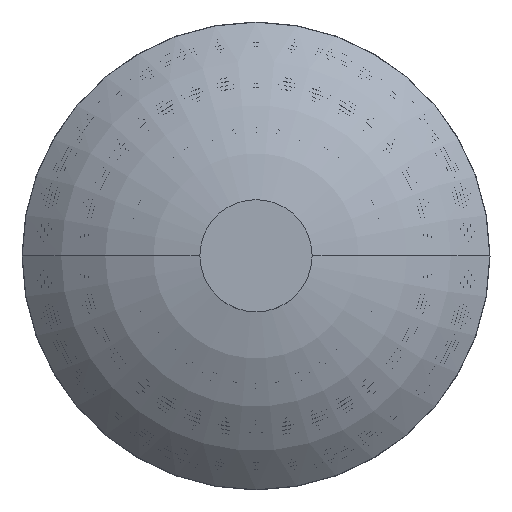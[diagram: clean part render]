
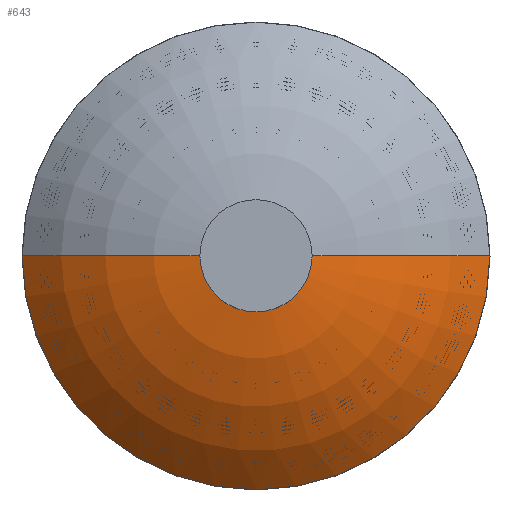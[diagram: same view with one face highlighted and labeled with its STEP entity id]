
A CAD part, top view. The second image highlights one B-rep face of the part: STEP entity #643.
In plain terms, the highlighted toroidal (fillet/blend) face has major radius 15.141 mm and minor radius 325 mm.
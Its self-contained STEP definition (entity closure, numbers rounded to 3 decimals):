
#220 = VERTEX_POINT ( 'NONE', #1953 ) ;
#296 = CIRCLE ( 'NONE', #4655, 250. ) ;
#409 = CARTESIAN_POINT ( 'NONE',  ( -250., 0., -100. ) ) ;
#504 = DIRECTION ( 'NONE',  ( 0., 0., 1. ) ) ;
#643 = ADVANCED_FACE ( 'NONE', ( #3615 ), #1296, .T. ) ;
#850 = AXIS2_PLACEMENT_3D ( 'NONE', #1854, #504, #1188 ) ;
#1188 = DIRECTION ( 'NONE',  ( 1., 0., 0. ) ) ;
#1194 = DIRECTION ( 'NONE',  ( 0., 0., -1. ) ) ;
#1296 = TOROIDAL_SURFACE ( 'NONE', #850, 15.141, 325. ) ;
#1582 = CARTESIAN_POINT ( 'NONE',  ( -15.141, 0., -324.647 ) ) ;
#1595 = ORIENTED_EDGE ( 'NONE', *, *, #2036, .T. ) ;
#1854 = CARTESIAN_POINT ( 'NONE',  ( 0., 0., -324.647 ) ) ;
#1927 = CARTESIAN_POINT ( 'NONE',  ( 0., 0., 0. ) ) ;
#1953 = CARTESIAN_POINT ( 'NONE',  ( 250., 0., -100. ) ) ;
#2036 = EDGE_CURVE ( 'NONE', #220, #3290, #4322, .T. ) ;
#2863 = DIRECTION ( 'NONE',  ( 0., 1., 0. ) ) ;
#3092 = AXIS2_PLACEMENT_3D ( 'NONE', #5197, #5915, #1194 ) ;
#3146 = CARTESIAN_POINT ( 'NONE',  ( 0., 0., -100. ) ) ;
#3290 = VERTEX_POINT ( 'NONE', #1927 ) ;
#3354 = VERTEX_POINT ( 'NONE', #409 ) ;
#3615 = FACE_OUTER_BOUND ( 'NONE', #5905, .T. ) ;
#4080 = CIRCLE ( 'NONE', #8725, 325. ) ;
#4255 = ORIENTED_EDGE ( 'NONE', *, *, #4327, .T. ) ;
#4322 = CIRCLE ( 'NONE', #3092, 325. ) ;
#4327 = EDGE_CURVE ( 'NONE', #3354, #220, #296, .T. ) ;
#4484 = DIRECTION ( 'NONE',  ( 1., 0., 0. ) ) ;
#4655 = AXIS2_PLACEMENT_3D ( 'NONE', #3146, #8580, #4484 ) ;
#4824 = DIRECTION ( 'NONE',  ( -1., 0., 0. ) ) ;
#5197 = CARTESIAN_POINT ( 'NONE',  ( 15.141, 0., -324.647 ) ) ;
#5905 = EDGE_LOOP ( 'NONE', ( #6445, #4255, #1595 ) ) ;
#5915 = DIRECTION ( 'NONE',  ( 0., -1., 0. ) ) ;
#6445 = ORIENTED_EDGE ( 'NONE', *, *, #8235, .F. ) ;
#8235 = EDGE_CURVE ( 'NONE', #3354, #3290, #4080, .T. ) ;
#8580 = DIRECTION ( 'NONE',  ( 0., 0., 1. ) ) ;
#8725 = AXIS2_PLACEMENT_3D ( 'NONE', #1582, #2863, #4824 ) ;
